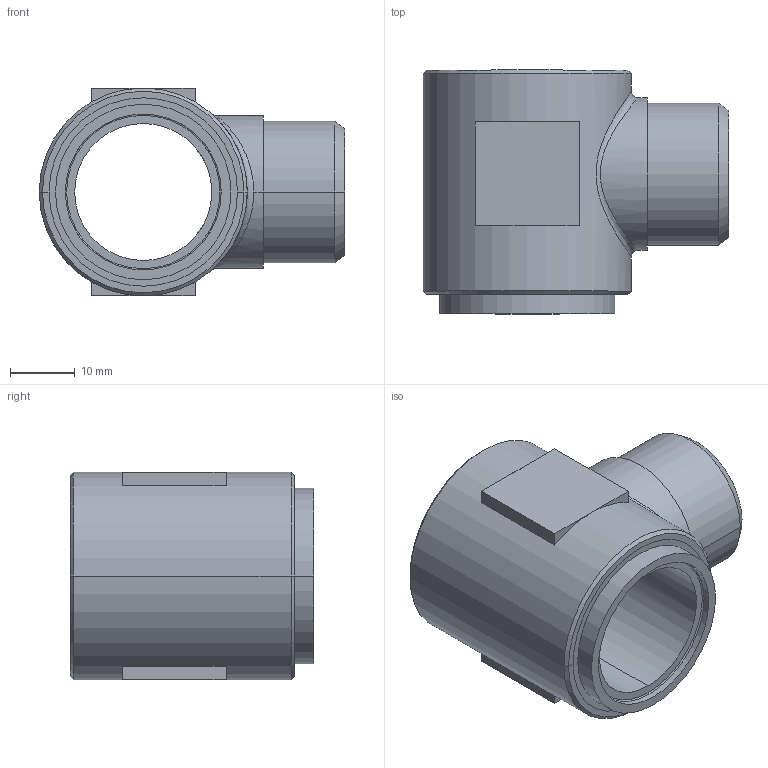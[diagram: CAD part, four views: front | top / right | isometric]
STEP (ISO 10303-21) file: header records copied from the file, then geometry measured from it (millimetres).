
FILE_DESCRIPTION((''),'2;1');
FILE_NAME('101318.stp','2007-10-30T15:39:42',(''),(''),'AutoCAD STEP 2000i','AutoCAD 2000i',', , ');
FILE_SCHEMA(('CONFIG_CONTROL_DESIGN'));
Length unit declared in the file: millimetre
Products named in the file (2): 101318.0; 1094#0
Assembly tree (1 placements, depth 2):
  101318.0
    1094#0
Bounding box: 47 x 37.5 x 32 mm (x, y, z)
Volume: 20406.3 mm3; surface area: 8900.9 mm2
Topology: 1 solids, 1 shells, 54 faces, 125 edges, 79 vertices
Faces by surface type: plane 21, cylinder 16, cone 12, bspline 5
Entity records: 2076 total; most frequent: CARTESIAN_POINT 708, DIRECTION 281, ORIENTED_EDGE 250, EDGE_CURVE 125, AXIS2_PLACEMENT_3D 114, VERTEX_POINT 79, EDGE_LOOP 64, CIRCLE 63
